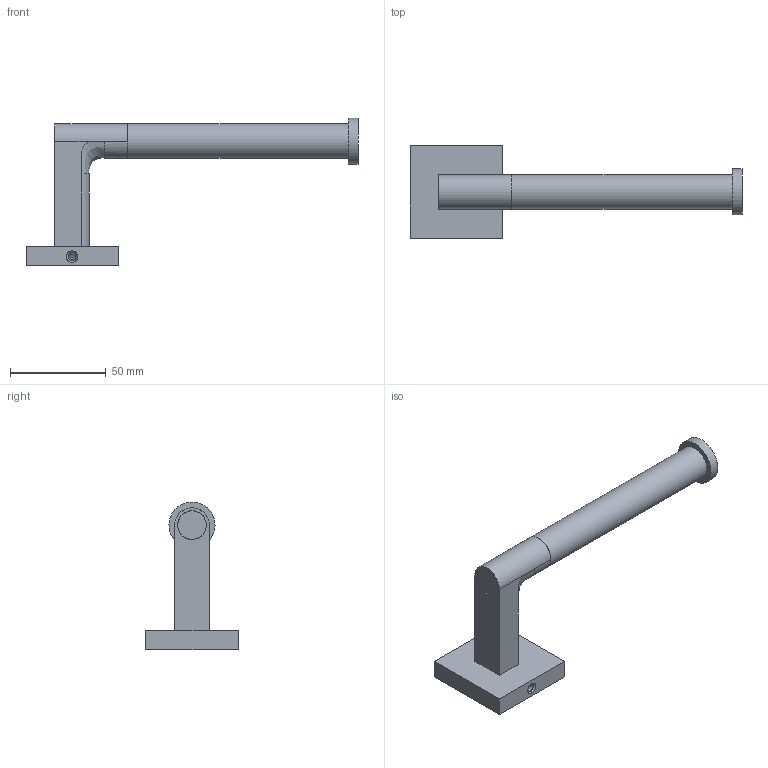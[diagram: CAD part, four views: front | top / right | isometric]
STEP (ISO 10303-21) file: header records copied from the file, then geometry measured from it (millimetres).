
FILE_DESCRIPTION(/* description */ (''),/* implementation_level */ '2;1');
FILE_NAME(/* name */ 'c:\worker\convert-fusion-r05\tmp\job-1\16\output\files\bd134b00-0064-4b89-8bde-72d89cae31da\81a4ed56-58bb-422f-8961-1975e1f61272.stp',/* time_stamp */ '2019-07-21T21:17:04+00:00',/* author */ (''),/* organization */ (''),/* preprocessor_version */ 'ST-DEVELOPER v18',/* originating_system */ 'Autodesk Translation Framework v8.2.0.1029',/* authorisation */ '');
FILE_SCHEMA (('AUTOMOTIVE_DESIGN { 1 0 10303 214 3 1 1 }'));
Length unit declared in the file: millimetre
Products named in the file (1): !TB50510
Bounding box: 173 x 48 x 76.99 mm (x, y, z)
Volume: 33015.4 mm3; surface area: 38674.7 mm2
Topology: 8 solids, 10 shells, 248 faces, 706 edges, 490 vertices
Faces by surface type: plane 162, cylinder 65, cone 12, bspline 5, sphere 2, torus 2
Full cylindrical faces by diameter (mm): 4.2 x2, 5 x2, 5.2 x1, 6 x1, 6.2 x1, 9 x2, 11 x1, 12 x1, 13 x2, 14 x1, 14.9 x2, 15 x2, 15.8 x1, 16.7 x1, 16.8 x1, 18 x1, 19 x1, 24 x1
Entity records: 9079 total; most frequent: CARTESIAN_POINT 2328, DIRECTION 1421, ORIENTED_EDGE 1417, EDGE_CURVE 706, AXIS2_PLACEMENT_3D 508, VERTEX_POINT 490, LINE 405, VECTOR 405
